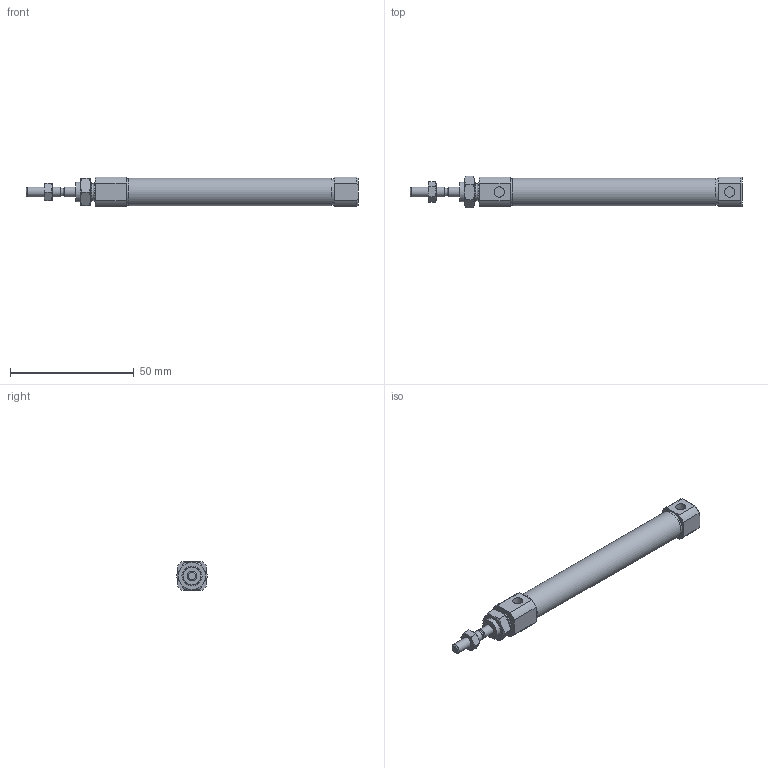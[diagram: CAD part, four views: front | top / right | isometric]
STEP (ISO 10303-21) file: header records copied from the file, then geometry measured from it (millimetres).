
FILE_DESCRIPTION((''),'2;1');
FILE_NAME('I:\3D電子目錄\氣缸\SBA\SBA\SBA10\SBA10x60.stp','2007-10-04T11:40:04',('66-2f-008'),(''),'Autodesk Inventor 11','Autodesk Inventor 11','');
FILE_SCHEMA(('AUTOMOTIVE_DESIGN { 1 0 10303 214 1 1 1 1 }'));
Length unit declared in the file: millimetre
Products named in the file (1): SBA10
Bounding box: 134 x 12.7 x 12 mm (x, y, z)
Volume: 12138.6 mm3; surface area: 5147.7 mm2
Topology: 1 solids, 1 shells, 88 faces, 186 edges, 113 vertices
Faces by surface type: plane 35, cone 30, cylinder 18, bspline 5
Full cylindrical faces by diameter (mm): 3.2 x1, 4 x3, 8 x3, 10.7 x2, 11.3 x1
Entity records: 2337 total; most frequent: CARTESIAN_POINT 609, DIRECTION 352, ORIENTED_EDGE 342, EDGE_CURVE 171, AXIS2_PLACEMENT_3D 153, EDGE_LOOP 116, VERTEX_POINT 113, FACE_OUTER_BOUND 88
